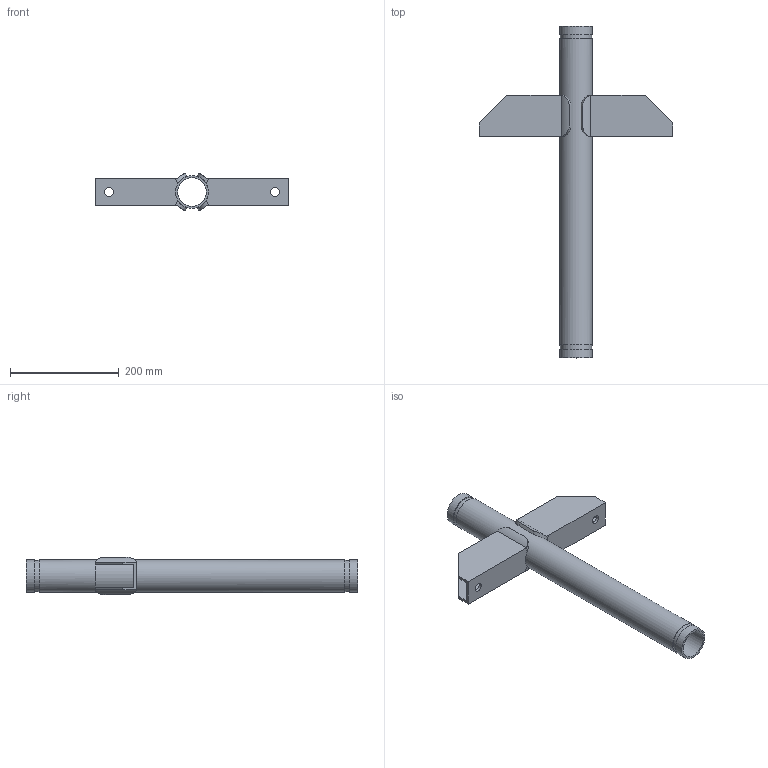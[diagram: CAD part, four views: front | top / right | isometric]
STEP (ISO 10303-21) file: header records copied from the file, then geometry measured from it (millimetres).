
FILE_DESCRIPTION(/* description */ ('VIC Floor-Mounted Carbon Steel Riser Anchor No A10','CAx-IF Rec.Pracs.---Representation and Presentation of Product Manufacturing Information (PMI)---4.0---2014-10-13'),/* implementation_level */ '2;1');
FILE_NAME(/* name */ 'C:\Users\kkamble\AppData\Roaming\Autodesk\ApplicationPlugins\Back Up\Victaulic_SS-OGS_Riser Anchor_No A10 (OGS)\Victaulic_SS-OGS_Riser Anchor_No A10 (OGS)_2 (50).stp',/* time_stamp */ '2020-08-25T18:06:35+06:00',/* author */ ('kkamble'),/* organization */ ('Victaulic'),/* preprocessor_version */ 'ST-DEVELOPER v17.2',/* originating_system */ 'Autodesk Inventor 2019',/* authorisation */ '');
FILE_SCHEMA (('AP242_MANAGED_MODEL_BASED_3D_ENGINEERING_MIM_LF { 1 0 10303 442 1 1 4 }'));
Length unit declared in the file: inch
Products named in the file (1): A10S-02.0
Bounding box: 355.6 x 609.6 x 68.58 mm (x, y, z)
Volume: 755447.9 mm3; surface area: 329938.9 mm2
Topology: 1 solids, 1 shells, 52 faces, 147 edges, 102 vertices
Faces by surface type: plane 30, cylinder 22
Full cylindrical faces by diameter (mm): 15.875 x2, 52.502 x1, 57.15 x2, 60.325 x3
Entity records: 2149 total; most frequent: CARTESIAN_POINT 591, DIRECTION 309, ORIENTED_EDGE 294, EDGE_CURVE 147, AXIS2_PLACEMENT_3D 112, VERTEX_POINT 102, LINE 85, VECTOR 85
